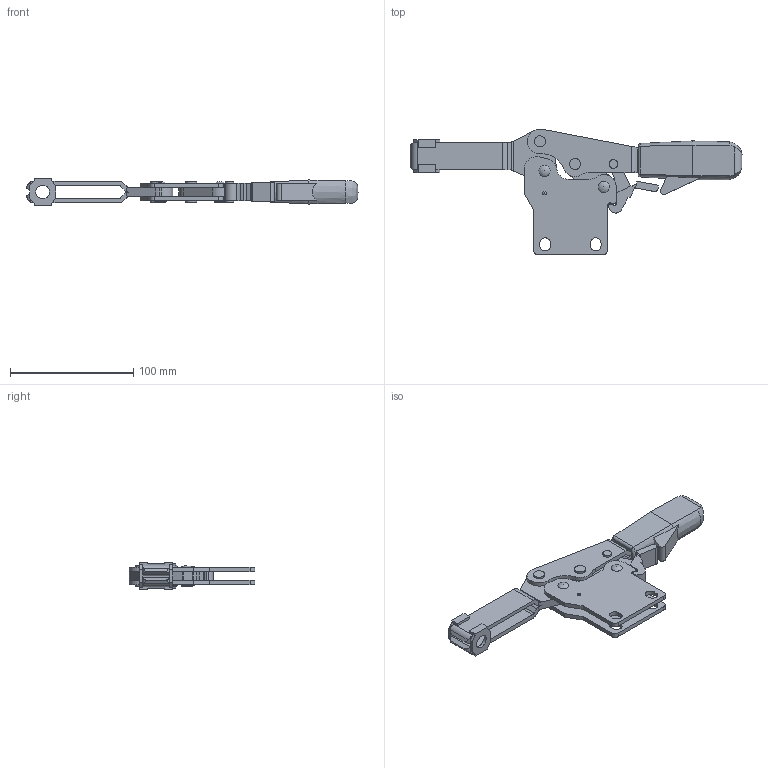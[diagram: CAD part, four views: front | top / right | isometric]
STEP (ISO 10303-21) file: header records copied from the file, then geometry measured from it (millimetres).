
FILE_DESCRIPTION( ( 'STEP AP203' ), '1' );
FILE_NAME( 'C:/Temp/Ganter_Step_05_03_2020/data/2_4/gn_820_4/gn_820_4_st/Toggle clamp GN 820.4-355-NL (closed).stp', '2020-03-13T05:53:26', ( 'License CC BY-ND 4.0' ), ( 'CADENAS' ), ' ', 'PARTsolutions', ' ' );
FILE_SCHEMA( ( 'CONFIG_CONTROL_DESIGN' ) );
Length unit declared in the file: millimetre
Products named in the file (7): Toggle clamp GN 820.4-355-NL (closed); _Toggle clamp GN 820.4-355-NL-1; _Toggle clamp GN 820.4-355-NL (1)-2; _Toggle clamp GN 820.4-355-NL (1)-3; _Toggle clamp GN 820.4-355-NL (1)-4; _Toggle clamp GN 820.4-355-NL-5; _Toggle clamp GN 820.4-355-NL-7
Assembly tree (7 placements, depth 2):
  Toggle clamp GN 820.4-355-NL (closed)
    _Toggle clamp GN 820.4-355-NL-1
    _Toggle clamp GN 820.4-355-NL (1)-2
    _Toggle clamp GN 820.4-355-NL (1)-3
    _Toggle clamp GN 820.4-355-NL (1)-4
    _Toggle clamp GN 820.4-355-NL-5
    _Toggle clamp GN 820.4-355-NL-7  x2
Bounding box: 269 x 101.99 x 22 mm (x, y, z)
Volume: 126123.5 mm3; surface area: 59715.9 mm2
Topology: 7 solids, 7 shells, 269 faces, 721 edges, 482 vertices
Faces by surface type: plane 155, cylinder 100, torus 4, bspline 4, cone 4, sphere 2
Full cylindrical faces by diameter (mm): 1.4 x3, 6 x3, 7 x6, 9 x10, 11 x2
Entity records: 8124 total; most frequent: CARTESIAN_POINT 1643, DIRECTION 1326, ORIENTED_EDGE 1246, EDGE_CURVE 623, AXIS2_PLACEMENT_3D 477, VERTEX_POINT 432, LINE 372, VECTOR 372
